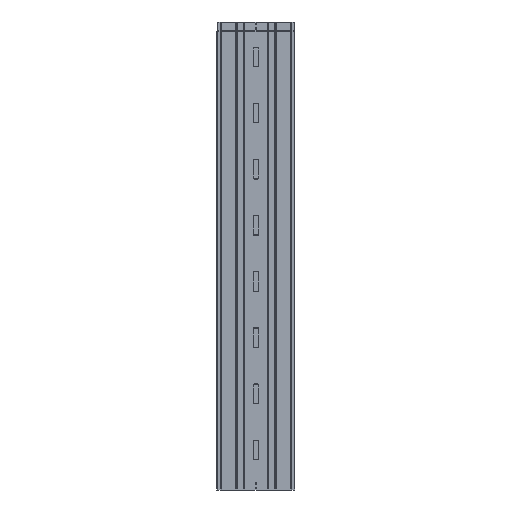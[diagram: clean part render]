
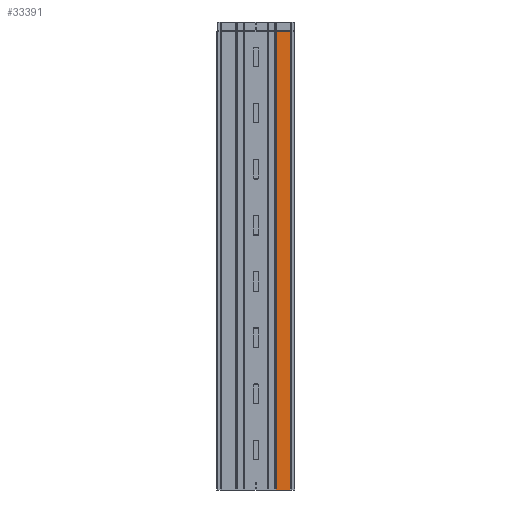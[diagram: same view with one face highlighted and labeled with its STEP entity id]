
A CAD part, front view. The second image highlights one B-rep face of the part: STEP entity #33391.
In plain terms, the highlighted planar face has unit normal (0, -1, 0).
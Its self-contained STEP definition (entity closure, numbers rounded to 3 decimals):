
#5393 = B_SPLINE_CURVE_WITH_KNOTS ( 'NONE', 3,
 ( #84487, #208257, #134659, #106289 ),
 .UNSPECIFIED., .F., .F.,
 ( 4, 4 ),
 ( 0., 1. ),
 .UNSPECIFIED. ) ;
#31686 = CARTESIAN_POINT ( 'NONE',  ( 220.544, 0., -2941.5 ) ) ;
#33391 = ADVANCED_FACE ( 'NONE', ( #169663 ), #146234, .T. ) ;
#41543 = EDGE_CURVE ( 'NONE', #303701, #276000, #91321, .T. ) ;
#63741 = VERTEX_POINT ( 'NONE', #211525 ) ;
#69837 = EDGE_CURVE ( 'NONE', #303701, #63741, #315361, .T. ) ;
#71006 = CARTESIAN_POINT ( 'NONE',  ( 129.456, 0., -2941.5 ) ) ;
#73686 = ORIENTED_EDGE ( 'NONE', *, *, #41543, .F. ) ;
#79237 = VECTOR ( 'NONE', #317009, 1000. ) ;
#80199 = DIRECTION ( 'NONE',  ( 0., 0., 1. ) ) ;
#84487 = CARTESIAN_POINT ( 'NONE',  ( 129.456, 0., 0. ) ) ;
#91321 = LINE ( 'NONE', #218369, #299322 ) ;
#103904 = CARTESIAN_POINT ( 'NONE',  ( 129.456, 0., 0. ) ) ;
#106289 = CARTESIAN_POINT ( 'NONE',  ( 220.544, 0., 0. ) ) ;
#111631 = CARTESIAN_POINT ( 'NONE',  ( 220.544, 0., 0. ) ) ;
#126367 = VECTOR ( 'NONE', #80199, 1000. ) ;
#134659 = CARTESIAN_POINT ( 'NONE',  ( 190.181, 0., 0. ) ) ;
#139763 = CARTESIAN_POINT ( 'NONE',  ( 129.456, 0., -2941.5 ) ) ;
#140409 = EDGE_CURVE ( 'NONE', #276000, #227936, #5393, .T. ) ;
#146234 = PLANE ( 'NONE',  #155099 ) ;
#155099 = AXIS2_PLACEMENT_3D ( 'NONE', #71006, #278274, #326809 ) ;
#160385 = LINE ( 'NONE', #31686, #126367 ) ;
#162994 = EDGE_LOOP ( 'NONE', ( #200826, #73686, #214189, #293084 ) ) ;
#169663 = FACE_OUTER_BOUND ( 'NONE', #162994, .T. ) ;
#200826 = ORIENTED_EDGE ( 'NONE', *, *, #140409, .F. ) ;
#208257 = CARTESIAN_POINT ( 'NONE',  ( 159.819, 0., 0. ) ) ;
#211525 = CARTESIAN_POINT ( 'NONE',  ( 220.544, 0., -2941.5 ) ) ;
#214189 = ORIENTED_EDGE ( 'NONE', *, *, #69837, .T. ) ;
#218369 = CARTESIAN_POINT ( 'NONE',  ( 129.456, 0., -2941.5 ) ) ;
#227936 = VERTEX_POINT ( 'NONE', #111631 ) ;
#233663 = CARTESIAN_POINT ( 'NONE',  ( 129.456, 0., -2941.5 ) ) ;
#276000 = VERTEX_POINT ( 'NONE', #103904 ) ;
#278274 = DIRECTION ( 'NONE',  ( 0., -1., 0. ) ) ;
#293084 = ORIENTED_EDGE ( 'NONE', *, *, #302205, .T. ) ;
#298590 = DIRECTION ( 'NONE',  ( 0., 0., 1. ) ) ;
#299322 = VECTOR ( 'NONE', #298590, 1000. ) ;
#302205 = EDGE_CURVE ( 'NONE', #63741, #227936, #160385, .T. ) ;
#303701 = VERTEX_POINT ( 'NONE', #233663 ) ;
#315361 = LINE ( 'NONE', #139763, #79237 ) ;
#317009 = DIRECTION ( 'NONE',  ( 1., 0., 0. ) ) ;
#326809 = DIRECTION ( 'NONE',  ( 1., 0., 0. ) ) ;
